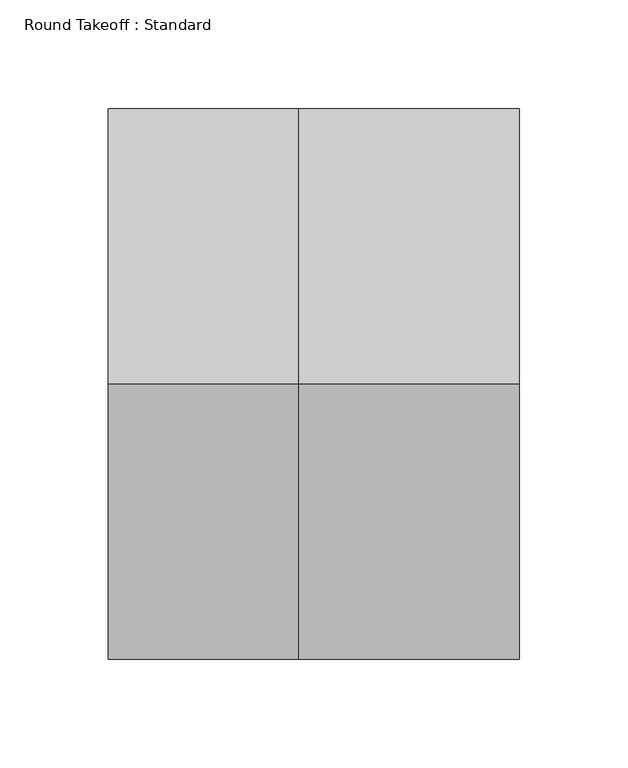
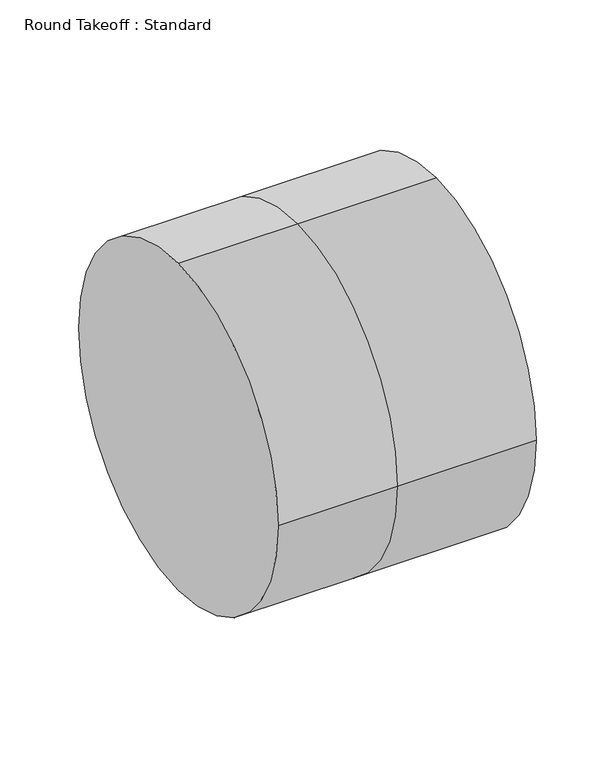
"""IFC4 building model written with IfcOpenShell, lengths in millimetres: duct fitting geometry, Round Takeoff : Standard."""

from ifc_helpers import new_model, si_unit, frame, origin, place, context, project, spatial, circle_curve, source, transform, mapped, element, save
from ifc_brep_helpers import plane_surface, cylinder_surface, advanced_brep


def round_takeoff_standard_161717b3(model_context):
    return source(origin(), model_context, "Body", "AdvancedBrep", [
        advanced_brep(
        [(101.6, 0.0, 127.0), (101.6, -127.0, 0.0), (101.6, 0.0, -127.0), (101.6, 127.0, 0.0), (0.0, 127.0, 0.0), (0.0, 0.0, 127.0), (0.0, 0.0, -127.0), (0.0, -127.0, 0.0), (-87.7526323, 0.0, 127.0), (-87.7526323, 127.0, 0.0), (-87.7526323, 0.0, -127.0), (-87.7526323, -127.0, 0.0)],
        [
            (0, 1, circle_curve(frame((101.6, 0.0, 0.0), z_axis=(1.0, 0.0, 0.0), x_axis=(0.0, 1.0, 0.0)), 127.0)),
            (1, 2, circle_curve(frame((101.6, 0.0, 0.0), z_axis=(1.0, 0.0, 0.0), x_axis=(0.0, 1.0, 0.0)), 127.0)),
            (2, 3, circle_curve(frame((101.6, 0.0, 0.0), z_axis=(1.0, 0.0, 0.0), x_axis=(0.0, 1.0, 0.0)), 127.0)),
            (3, 0, circle_curve(frame((101.6, 0.0, 0.0), z_axis=(1.0, 0.0, 0.0), x_axis=(0.0, 1.0, 0.0)), 127.0)),
            (3, 4),
            (4, 5, circle_curve(frame((0.0, 0.0, 0.0), z_axis=(1.0, 0.0, 0.0), x_axis=(0.0, 1.0, 0.0)), 127.0)),
            (5, 0),
            (2, 6),
            (6, 4, circle_curve(frame((0.0, 0.0, 0.0), z_axis=(1.0, 0.0, 0.0), x_axis=(0.0, 1.0, 0.0)), 127.0)),
            (1, 7),
            (7, 6, circle_curve(frame((0.0, 0.0, 0.0), z_axis=(1.0, 0.0, 0.0), x_axis=(0.0, 1.0, 0.0)), 127.0)),
            (5, 7, circle_curve(frame((0.0, 0.0, 0.0), z_axis=(1.0, 0.0, 0.0), x_axis=(0.0, 1.0, 0.0)), 127.0)),
            (8, 9, circle_curve(frame((-87.7526323, 0.0, 0.0), z_axis=(-1.0, 0.0, 0.0), x_axis=(0.0, 1.0, 0.0)), 127.0)),
            (9, 10, circle_curve(frame((-87.7526323, 0.0, 0.0), z_axis=(-1.0, 0.0, 0.0), x_axis=(0.0, 1.0, 0.0)), 127.0)),
            (10, 11, circle_curve(frame((-87.7526323, 0.0, 0.0), z_axis=(-1.0, 0.0, 0.0), x_axis=(0.0, 1.0, 0.0)), 127.0)),
            (11, 8, circle_curve(frame((-87.7526323, 0.0, 0.0), z_axis=(-1.0, 0.0, 0.0), x_axis=(0.0, 1.0, 0.0)), 127.0)),
            (8, 5),
            (4, 9),
            (6, 10),
            (7, 11),
        ],
        [
            plane_surface(frame((101.6, 0.0, 0.0), z_axis=(1.0, 0.0, 0.0), x_axis=(0.0, 0.0, 1.0))),
            cylinder_surface(frame((0.0, 0.0, 0.0), z_axis=(-1.0, 0.0, 0.0), x_axis=(0.0, 1.0, 0.0)), 127.0),
            plane_surface(frame((-87.7526323, 0.0, 0.0), z_axis=(-1.0, 0.0, 0.0), x_axis=(0.0, 0.0, 1.0))),
            cylinder_surface(frame((-87.7526323, 0.0, 0.0), z_axis=(-1.0, 0.0, 0.0), x_axis=(0.0, 1.0, 0.0)), 127.0),
        ],
        [
            (0, [[1, 2, 3, 4]]),
            (1, [[-4, 5, 6, 7]]),
            (1, [[-3, 8, 9, -5]]),
            (1, [[-2, 10, 11, -8]]),
            (1, [[-1, -7, 12, -10]]),
            (2, [[13, 14, 15, 16]]),
            (3, [[-13, 17, -6, 18]]),
            (3, [[-14, -18, -9, 19]]),
            (3, [[-15, -19, -11, 20]]),
            (3, [[-16, -20, -12, -17]]),
        ],
    ),
    ])


if __name__ == "__main__":
    model = new_model("IFC4")
    model_context = context("Model", 3, world=origin())
    ifc_project = project(units=[si_unit("LENGTHUNIT", "METRE", prefix="MILLI")], contexts=[model_context])
    site = spatial("IfcSite", under=ifc_project)
    building = spatial("IfcBuilding", under=site)
    placement = place(None, origin())
    round_takeoff_standard_shape = round_takeoff_standard_161717b3(model_context)
    element("IfcDuctFitting", 1, ObjectType="Round Takeoff : Standard", at=placement, inside=building, context=model_context, shape_type="MappedRepresentation", body=[
        mapped(round_takeoff_standard_shape, transform((0.0, 0.0, 0.0), x_axis=(1.0, 0.0, 0.0), y_axis=(0.0, 1.0, 0.0), z_axis=(0.0, 0.0, 1.0))),
    ])
    save(model, "model.ifc")
